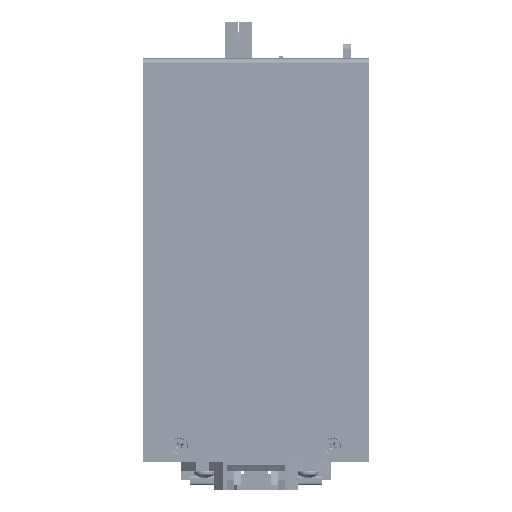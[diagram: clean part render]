
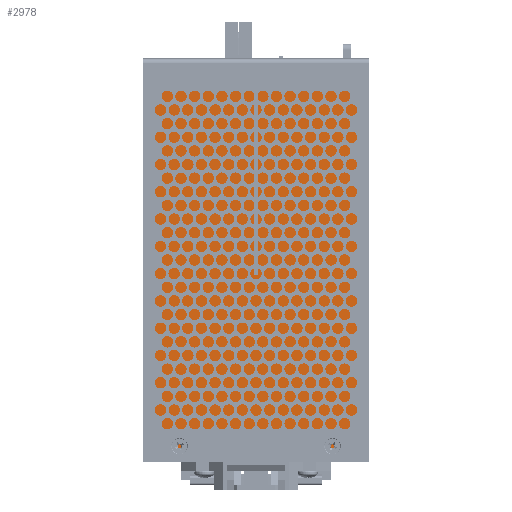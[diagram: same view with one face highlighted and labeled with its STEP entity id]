
A CAD part, front view. The second image highlights one B-rep face of the part: STEP entity #2978.
In plain terms, the highlighted planar face has unit normal (0, -1, 0) as drawn and (0, 0, 1) by its records, which use the part's own axes.
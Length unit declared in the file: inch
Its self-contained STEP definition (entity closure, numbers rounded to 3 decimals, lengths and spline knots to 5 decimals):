
#2978 = ADVANCED_FACE ( 'NONE', ( #358538 ), #44826, .T. ) ;
#19543 = CARTESIAN_POINT ( 'NONE',  ( -0.036, 0.0719, 0. ) ) ;
#28044 = CARTESIAN_POINT ( 'NONE',  ( -0.068, 5.4699, 0. ) ) ;
#34616 = EDGE_LOOP ( 'NONE', ( #351405, #180990, #257104, #92176, #160437, #416496 ) ) ;
#40586 = CIRCLE ( 'NONE', #353810, 0.032 ) ;
#44826 = PLANE ( 'NONE',  #130756 ) ;
#57994 = CIRCLE ( 'NONE', #165081, 0.032 ) ;
#64121 = DIRECTION ( 'NONE',  ( 1., 0., 0. ) ) ;
#79738 = VERTEX_POINT ( 'NONE', #263416 ) ;
#90131 = EDGE_CURVE ( 'NONE', #229461, #259285, #57994, .T. ) ;
#92176 = ORIENTED_EDGE ( 'NONE', *, *, #200165, .T. ) ;
#113975 = LINE ( 'NONE', #259850, #334862 ) ;
#114439 = DIRECTION ( 'NONE',  ( 0., 0., 1. ) ) ;
#123643 = DIRECTION ( 'NONE',  ( -1., 0., 0. ) ) ;
#130756 = AXIS2_PLACEMENT_3D ( 'NONE', #336847, #114439, #339219 ) ;
#140998 = VECTOR ( 'NONE', #123643, 39.37008 ) ;
#141633 = EDGE_CURVE ( 'NONE', #259285, #351057, #416742, .T. ) ;
#141727 = LINE ( 'NONE', #435979, #207723 ) ;
#150808 = DIRECTION ( 'NONE',  ( 0., 0., 1. ) ) ;
#153184 = DIRECTION ( 'NONE',  ( 1., 0., 0. ) ) ;
#160437 = ORIENTED_EDGE ( 'NONE', *, *, #90131, .T. ) ;
#165081 = AXIS2_PLACEMENT_3D ( 'NONE', #438005, #150808, #153184 ) ;
#180990 = ORIENTED_EDGE ( 'NONE', *, *, #466488, .T. ) ;
#200165 = EDGE_CURVE ( 'NONE', #79738, #229461, #310025, .T. ) ;
#207723 = VECTOR ( 'NONE', #361723, 39.37008 ) ;
#229461 = VERTEX_POINT ( 'NONE', #312193 ) ;
#236827 = CARTESIAN_POINT ( 'NONE',  ( -3.0254, 5.4699, 0. ) ) ;
#246166 = VERTEX_POINT ( 'NONE', #263758 ) ;
#257104 = ORIENTED_EDGE ( 'NONE', *, *, #322501, .T. ) ;
#259285 = VERTEX_POINT ( 'NONE', #236827 ) ;
#259850 = CARTESIAN_POINT ( 'NONE',  ( -0.036, 0.0719, 0. ) ) ;
#263416 = CARTESIAN_POINT ( 'NONE',  ( -0.068, 5.5019, 0. ) ) ;
#263758 = CARTESIAN_POINT ( 'NONE',  ( -0.036, 5.4699, 0. ) ) ;
#284137 = DIRECTION ( 'NONE',  ( 0., 0., 1. ) ) ;
#298106 = DIRECTION ( 'NONE',  ( 0., 1., 0. ) ) ;
#310025 = LINE ( 'NONE', #422523, #140998 ) ;
#312193 = CARTESIAN_POINT ( 'NONE',  ( -2.9934, 5.5019, 0. ) ) ;
#322501 = EDGE_CURVE ( 'NONE', #246166, #79738, #40586, .T. ) ;
#334862 = VECTOR ( 'NONE', #298106, 39.37008 ) ;
#336847 = CARTESIAN_POINT ( 'NONE',  ( -0.068, 5.4699, 0. ) ) ;
#339219 = DIRECTION ( 'NONE',  ( 1., 0., 0. ) ) ;
#342670 = DIRECTION ( 'NONE',  ( 0., -1., 0. ) ) ;
#348925 = VECTOR ( 'NONE', #342670, 39.37008 ) ;
#351057 = VERTEX_POINT ( 'NONE', #389953 ) ;
#351405 = ORIENTED_EDGE ( 'NONE', *, *, #408195, .T. ) ;
#353810 = AXIS2_PLACEMENT_3D ( 'NONE', #28044, #284137, #64121 ) ;
#358538 = FACE_OUTER_BOUND ( 'NONE', #34616, .T. ) ;
#361723 = DIRECTION ( 'NONE',  ( 1., 0., 0. ) ) ;
#389953 = CARTESIAN_POINT ( 'NONE',  ( -3.0254, 0.0719, 0. ) ) ;
#408195 = EDGE_CURVE ( 'NONE', #351057, #424975, #141727, .T. ) ;
#416496 = ORIENTED_EDGE ( 'NONE', *, *, #141633, .T. ) ;
#416742 = LINE ( 'NONE', #450479, #348925 ) ;
#422523 = CARTESIAN_POINT ( 'NONE',  ( -0.068, 5.5019, 0. ) ) ;
#424975 = VERTEX_POINT ( 'NONE', #19543 ) ;
#435979 = CARTESIAN_POINT ( 'NONE',  ( -3.0254, 0.0719, 0. ) ) ;
#438005 = CARTESIAN_POINT ( 'NONE',  ( -2.9934, 5.4699, 0. ) ) ;
#450479 = CARTESIAN_POINT ( 'NONE',  ( -3.0254, 5.4699, 0. ) ) ;
#466488 = EDGE_CURVE ( 'NONE', #424975, #246166, #113975, .T. ) ;
